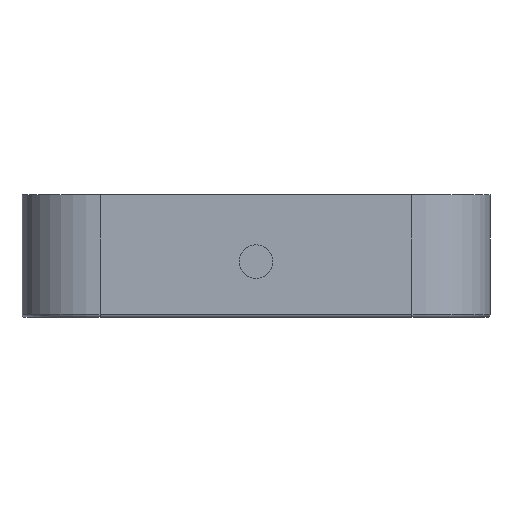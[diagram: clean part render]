
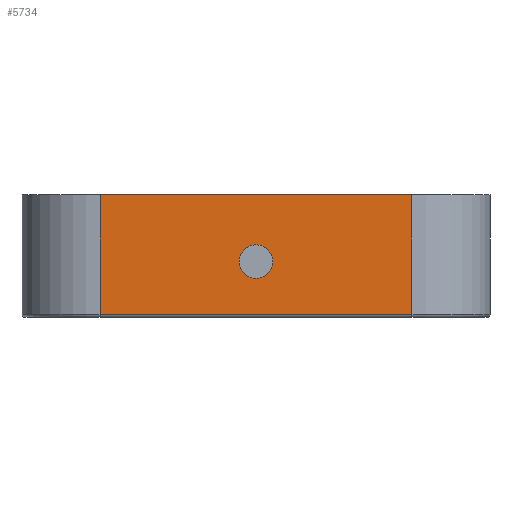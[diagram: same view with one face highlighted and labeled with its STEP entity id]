
A CAD part, left-side view. The second image highlights one B-rep face of the part: STEP entity #5734.
In plain terms, the highlighted planar face has unit normal (-1, 0, 0).
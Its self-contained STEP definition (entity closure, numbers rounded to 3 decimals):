
#234=FACE_BOUND('',#1354,.T.);
#713=PLANE('',#5916);
#1022=FACE_OUTER_BOUND('',#1353,.T.);
#1353=EDGE_LOOP('',(#5370,#5371,#5372,#5373));
#1354=EDGE_LOOP('',(#5374));
#1760=LINE('',#10049,#2184);
#1781=LINE('',#10158,#2205);
#1782=LINE('',#10160,#2206);
#1783=LINE('',#10162,#2207);
#2184=VECTOR('',#6526,10.);
#2205=VECTOR('',#6659,10.);
#2206=VECTOR('',#6662,10.);
#2207=VECTOR('',#6665,10.);
#2216=CIRCLE('',#5764,1.5);
#2268=VERTEX_POINT('',#6707);
#2795=VERTEX_POINT('',#10046);
#2796=VERTEX_POINT('',#10048);
#2823=VERTEX_POINT('',#10131);
#2828=VERTEX_POINT('',#10154);
#2838=EDGE_CURVE('',#2268,#2268,#2216,.T.);
#3625=EDGE_CURVE('',#2795,#2796,#1760,.T.);
#3681=EDGE_CURVE('',#2823,#2828,#1781,.T.);
#3682=EDGE_CURVE('',#2828,#2795,#1782,.T.);
#3683=EDGE_CURVE('',#2823,#2796,#1783,.T.);
#5370=ORIENTED_EDGE('',*,*,#3681,.F.);
#5371=ORIENTED_EDGE('',*,*,#3683,.T.);
#5372=ORIENTED_EDGE('',*,*,#3625,.F.);
#5373=ORIENTED_EDGE('',*,*,#3682,.F.);
#5374=ORIENTED_EDGE('',*,*,#2838,.T.);
#5734=ADVANCED_FACE('',(#1022,#234),#713,.T.);
#5764=AXIS2_PLACEMENT_3D('',#6709,#5947,#5948);
#5916=AXIS2_PLACEMENT_3D('',#10161,#6663,#6664);
#5947=DIRECTION('center_axis',(1.,0.,0.));
#5948=DIRECTION('ref_axis',(0.,-1.,0.));
#6526=DIRECTION('',(0.,-1.,0.));
#6659=DIRECTION('',(0.,1.,0.));
#6662=DIRECTION('',(0.,0.,1.));
#6663=DIRECTION('center_axis',(-1.,0.,0.));
#6664=DIRECTION('ref_axis',(0.,-1.,0.));
#6665=DIRECTION('',(0.,0.,1.));
#6707=CARTESIAN_POINT('',(-21.,1.5,5.));
#6709=CARTESIAN_POINT('Origin',(-21.,0.,
5.));
#10046=CARTESIAN_POINT('',(-21.,14.,11.));
#10048=CARTESIAN_POINT('',(-21.,-14.,11.));
#10049=CARTESIAN_POINT('',(-21.,14.,11.));
#10131=CARTESIAN_POINT('',(-21.,-14.,0.25));
#10154=CARTESIAN_POINT('',(-21.,14.,0.25));
#10158=CARTESIAN_POINT('',(-21.,7.,0.25));
#10160=CARTESIAN_POINT('',(-21.,14.,0.));
#10161=CARTESIAN_POINT('Origin',(-21.,14.,0.));
#10162=CARTESIAN_POINT('',(-21.,-14.,0.));
